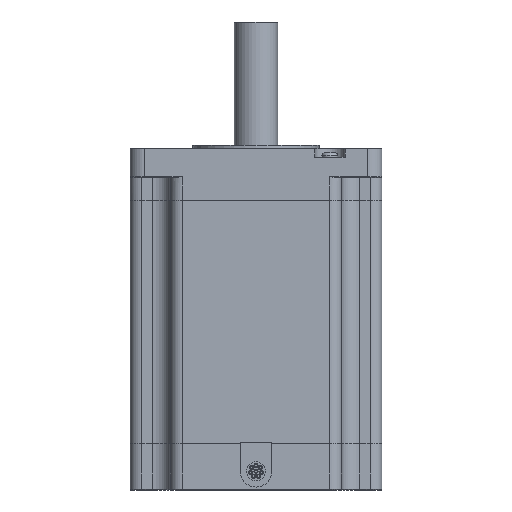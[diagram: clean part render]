
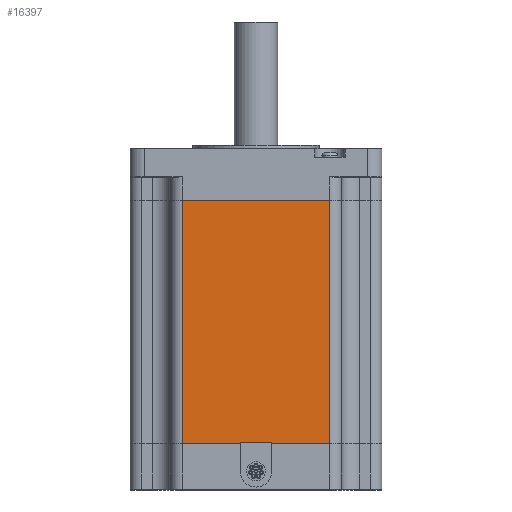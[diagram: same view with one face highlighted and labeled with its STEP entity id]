
A CAD part, front view. The second image highlights one B-rep face of the part: STEP entity #16397.
In plain terms, the highlighted planar face has unit normal (0, -1, 0).
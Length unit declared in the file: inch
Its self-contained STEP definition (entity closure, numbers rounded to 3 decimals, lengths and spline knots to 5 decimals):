
#89 = EDGE_LOOP ( 'NONE', ( #16395, #114, #123, #17389 ) ) ;
#109 = EDGE_CURVE ( 'NONE', #118, #1443, #2318, .T. ) ;
#114 = ORIENTED_EDGE ( 'NONE', *, *, #16356, .F. ) ;
#118 = VERTEX_POINT ( 'NONE', #2371 ) ;
#123 = ORIENTED_EDGE ( 'NONE', *, *, #128, .F. ) ;
#128 = EDGE_CURVE ( 'NONE', #118, #16427, #2401, .T. ) ;
#1443 = VERTEX_POINT ( 'NONE', #9960 ) ;
#1462 = EDGE_CURVE ( 'NONE', #1443, #1464, #10069, .T. ) ;
#1464 = VERTEX_POINT ( 'NONE', #10186 ) ;
#2309 = DIRECTION ( 'NONE',  ( 0., 0., 1. ) ) ;
#2310 = VECTOR ( 'NONE', #2309, 39.37008 ) ;
#2317 = CARTESIAN_POINT ( 'NONE',  ( 1.2775, -2.1765, -5.105 ) ) ;
#2318 = LINE ( 'NONE', #2317, #2310 ) ;
#2371 = CARTESIAN_POINT ( 'NONE',  ( 1.2775, -2.1765, -5.105 ) ) ;
#2393 = DIRECTION ( 'NONE',  ( -1., 0., 0. ) ) ;
#2394 = VECTOR ( 'NONE', #2393, 39.37008 ) ;
#2395 = CARTESIAN_POINT ( 'NONE',  ( 1.2775, -2.1765, -5.105 ) ) ;
#2401 = LINE ( 'NONE', #2395, #2394 ) ;
#9960 = CARTESIAN_POINT ( 'NONE',  ( 1.2775, -2.1765, -0.9 ) ) ;
#10068 = CARTESIAN_POINT ( 'NONE',  ( 1.2775, -2.1765, -0.9 ) ) ;
#10069 = LINE ( 'NONE', #10068, #10077 ) ;
#10077 = VECTOR ( 'NONE', #10190, 39.37008 ) ;
#10186 = CARTESIAN_POINT ( 'NONE',  ( -1.2775, -2.1765, -0.9 ) ) ;
#10190 = DIRECTION ( 'NONE',  ( -1., 0., 0. ) ) ;
#12864 = AXIS2_PLACEMENT_3D ( 'NONE', #12872, #12871, #12870 ) ;
#12870 = DIRECTION ( 'NONE',  ( -1., 0., 0. ) ) ;
#12871 = DIRECTION ( 'NONE',  ( 0., 1., 0. ) ) ;
#12872 = CARTESIAN_POINT ( 'NONE',  ( 1.2775, -2.1765, -5.105 ) ) ;
#13280 = PLANE ( 'NONE',  #12864 ) ;
#13290 = FACE_OUTER_BOUND ( 'NONE', #89, .T. ) ;
#13291 = CARTESIAN_POINT ( 'NONE',  ( -1.2775, -2.1765, -5.105 ) ) ;
#13292 = LINE ( 'NONE', #13291, #13330 ) ;
#13329 = DIRECTION ( 'NONE',  ( 0., 0., 1. ) ) ;
#13330 = VECTOR ( 'NONE', #13329, 39.37008 ) ;
#13367 = CARTESIAN_POINT ( 'NONE',  ( -1.2775, -2.1765, -5.105 ) ) ;
#16356 = EDGE_CURVE ( 'NONE', #16427, #1464, #13292, .T. ) ;
#16395 = ORIENTED_EDGE ( 'NONE', *, *, #1462, .T. ) ;
#16397 = ADVANCED_FACE ( 'NONE', ( #13290 ), #13280, .F. ) ;
#16427 = VERTEX_POINT ( 'NONE', #13367 ) ;
#17389 = ORIENTED_EDGE ( 'NONE', *, *, #109, .T. ) ;
